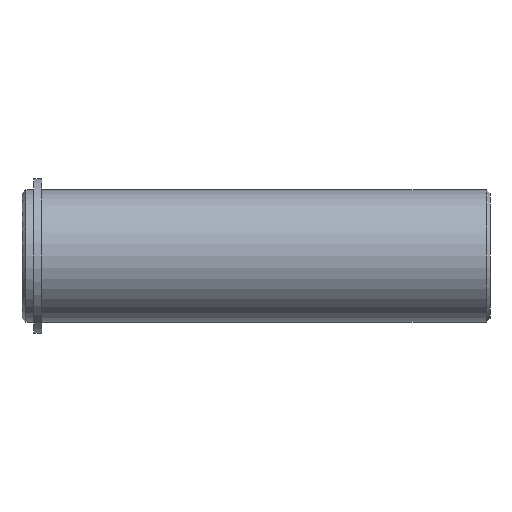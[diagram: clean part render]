
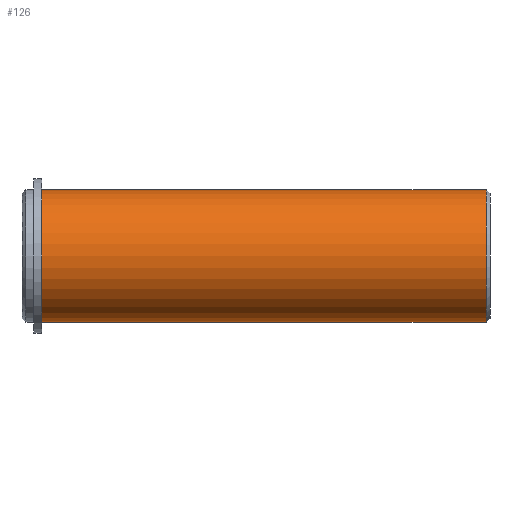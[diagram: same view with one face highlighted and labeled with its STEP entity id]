
A CAD part, front view. The second image highlights one B-rep face of the part: STEP entity #126.
In plain terms, the highlighted cylindrical face has radius 8.5 mm (diameter 17 mm), a partial arc.
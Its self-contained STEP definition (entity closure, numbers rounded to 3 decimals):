
#2 = CARTESIAN_POINT ( 'NONE',  ( 0., 0., 0. ) ) ;
#3 = DIRECTION ( 'NONE',  ( 0., 0., 1. ) ) ;
#4 = VERTEX_POINT ( 'NONE', #110 ) ;
#11 = DIRECTION ( 'NONE',  ( -1., 0., 0. ) ) ;
#15 = FACE_OUTER_BOUND ( 'NONE', #183, .T. ) ;
#17 = AXIS2_PLACEMENT_3D ( 'NONE', #537, #11, #3 ) ;
#18 = DIRECTION ( 'NONE',  ( -1., 0., 0. ) ) ;
#21 = DIRECTION ( 'NONE',  ( 0., 0., 1. ) ) ;
#23 = CIRCLE ( 'NONE', #317, 8.5 ) ;
#29 = ORIENTED_EDGE ( 'NONE', *, *, #142, .F. ) ;
#55 = CARTESIAN_POINT ( 'NONE',  ( 59.5, 0., -8.5 ) ) ;
#73 = VERTEX_POINT ( 'NONE', #325 ) ;
#77 = EDGE_CURVE ( 'NONE', #558, #443, #305, .T. ) ;
#110 = CARTESIAN_POINT ( 'NONE',  ( 2.5, 0., 8.5 ) ) ;
#111 = VECTOR ( 'NONE', #320, 1000. ) ;
#126 = ADVANCED_FACE ( 'NONE', ( #15 ), #389, .T. ) ;
#142 = EDGE_CURVE ( 'NONE', #443, #4, #241, .T. ) ;
#183 = EDGE_LOOP ( 'NONE', ( #543, #310, #439, #29 ) ) ;
#196 = DIRECTION ( 'NONE',  ( -1., 0., 0. ) ) ;
#197 = AXIS2_PLACEMENT_3D ( 'NONE', #2, #196, #371 ) ;
#227 = EDGE_CURVE ( 'NONE', #558, #73, #23, .T. ) ;
#241 = CIRCLE ( 'NONE', #17, 8.5 ) ;
#279 = VECTOR ( 'NONE', #368, 1000. ) ;
#282 = CARTESIAN_POINT ( 'NONE',  ( 59.5, 0., 0. ) ) ;
#305 = LINE ( 'NONE', #447, #279 ) ;
#310 = ORIENTED_EDGE ( 'NONE', *, *, #227, .T. ) ;
#311 = CARTESIAN_POINT ( 'NONE',  ( 0., 0., 8.5 ) ) ;
#317 = AXIS2_PLACEMENT_3D ( 'NONE', #282, #18, #21 ) ;
#320 = DIRECTION ( 'NONE',  ( -1., 0., 0. ) ) ;
#325 = CARTESIAN_POINT ( 'NONE',  ( 59.5, 0., 8.5 ) ) ;
#328 = LINE ( 'NONE', #311, #111 ) ;
#368 = DIRECTION ( 'NONE',  ( -1., 0., 0. ) ) ;
#371 = DIRECTION ( 'NONE',  ( 0., 0., 1. ) ) ;
#389 = CYLINDRICAL_SURFACE ( 'NONE', #197, 8.5 ) ;
#439 = ORIENTED_EDGE ( 'NONE', *, *, #553, .T. ) ;
#443 = VERTEX_POINT ( 'NONE', #566 ) ;
#447 = CARTESIAN_POINT ( 'NONE',  ( 0., 0., -8.5 ) ) ;
#537 = CARTESIAN_POINT ( 'NONE',  ( 2.5, 0., 0. ) ) ;
#543 = ORIENTED_EDGE ( 'NONE', *, *, #77, .F. ) ;
#553 = EDGE_CURVE ( 'NONE', #73, #4, #328, .T. ) ;
#558 = VERTEX_POINT ( 'NONE', #55 ) ;
#566 = CARTESIAN_POINT ( 'NONE',  ( 2.5, 0., -8.5 ) ) ;
